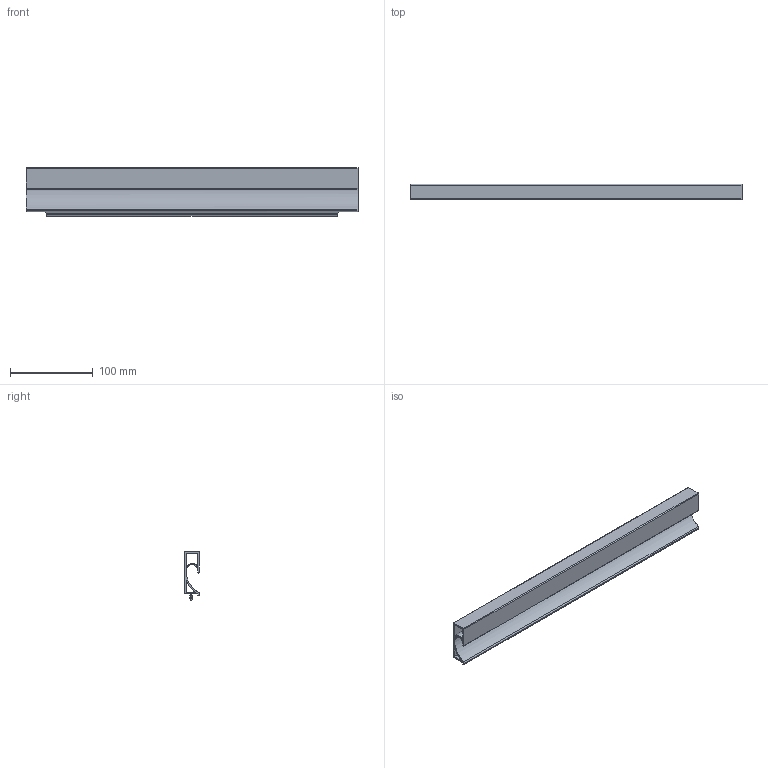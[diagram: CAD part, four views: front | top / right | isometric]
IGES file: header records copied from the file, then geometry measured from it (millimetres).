
Start section: C
Global section: file name: 8172-400.igs; native system: By Siemens PLM Incorporated; preprocessor: XPlus GENERIC/IGES 16.0.42; author: Author; organization: Title; date: 20231126.131003; units: millimetre
Bounding box: 400 x 18.4 x 59 mm (x, y, z)
Surface area: 121922.4 mm2 (no closed solid volume)
Topology: 0 solids, 0 shells, 49 faces, 282 edges, 282 vertices
Faces by surface type: bspline 49
